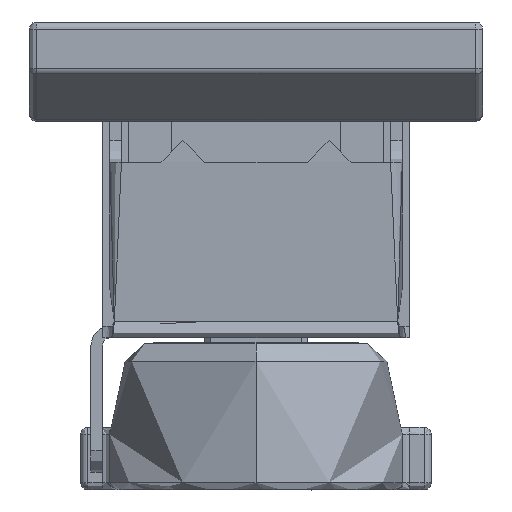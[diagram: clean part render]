
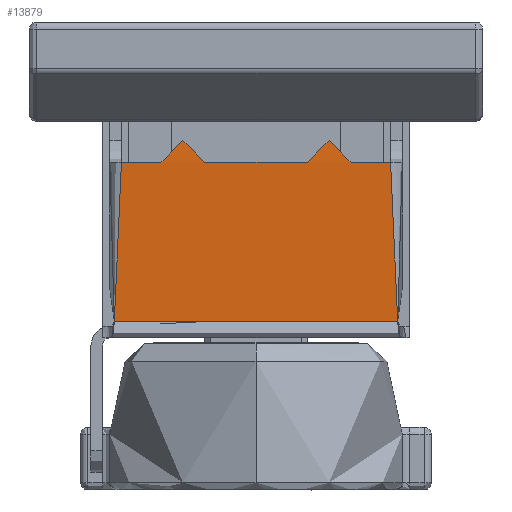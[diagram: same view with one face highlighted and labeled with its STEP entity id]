
A CAD part, front view. The second image highlights one B-rep face of the part: STEP entity #13879.
In plain terms, the highlighted planar face has unit normal (0, 1, 0).
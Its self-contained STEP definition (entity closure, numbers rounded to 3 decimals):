
#1 = ORIENTED_EDGE ( 'NONE', *, *, #13492, .T. ) ;
#489 = VERTEX_POINT ( 'NONE', #9597 ) ;
#731 = DIRECTION ( 'NONE',  ( 0.707, 0., 0.707 ) ) ;
#984 = CARTESIAN_POINT ( 'NONE',  ( -10.5, -12.05, 12. ) ) ;
#992 = VECTOR ( 'NONE', #6529, 1000. ) ;
#1025 = VECTOR ( 'NONE', #10344, 1000. ) ;
#1057 = LINE ( 'NONE', #2574, #7433 ) ;
#1105 = LINE ( 'NONE', #18258, #1025 ) ;
#1580 = DIRECTION ( 'NONE',  ( 0., 1., 0. ) ) ;
#2574 = CARTESIAN_POINT ( 'NONE',  ( 3.5, -12.05, 12. ) ) ;
#2740 = VERTEX_POINT ( 'NONE', #15927 ) ;
#2819 = VERTEX_POINT ( 'NONE', #12612 ) ;
#3041 = EDGE_CURVE ( 'NONE', #6341, #489, #1105, .T. ) ;
#3130 = CARTESIAN_POINT ( 'NONE',  ( -10.5, -12.05, 0. ) ) ;
#3181 = EDGE_CURVE ( 'NONE', #12739, #6550, #16976, .T. ) ;
#3345 = LINE ( 'NONE', #14055, #992 ) ;
#3698 = EDGE_CURVE ( 'NONE', #489, #2740, #17204, .T. ) ;
#3786 = ORIENTED_EDGE ( 'NONE', *, *, #19134, .T. ) ;
#4345 = DIRECTION ( 'NONE',  ( 0.707, 0., 0.707 ) ) ;
#4505 = VECTOR ( 'NONE', #16616, 1000. ) ;
#4595 = ORIENTED_EDGE ( 'NONE', *, *, #5843, .T. ) ;
#4673 = ORIENTED_EDGE ( 'NONE', *, *, #6068, .T. ) ;
#4839 = ORIENTED_EDGE ( 'NONE', *, *, #9044, .T. ) ;
#4927 = CARTESIAN_POINT ( 'NONE',  ( -6.5, -12.05, 12. ) ) ;
#5843 = EDGE_CURVE ( 'NONE', #2819, #18089, #15941, .T. ) ;
#5844 = VECTOR ( 'NONE', #12956, 1000. ) ;
#6037 = ORIENTED_EDGE ( 'NONE', *, *, #19234, .T. ) ;
#6068 = EDGE_CURVE ( 'NONE', #6550, #2819, #14353, .T. ) ;
#6341 = VERTEX_POINT ( 'NONE', #18053 ) ;
#6529 = DIRECTION ( 'NONE',  ( 1., 0., 0. ) ) ;
#6550 = VERTEX_POINT ( 'NONE', #18983 ) ;
#7379 = CARTESIAN_POINT ( 'NONE',  ( -6.5, -12.05, 12. ) ) ;
#7433 = VECTOR ( 'NONE', #731, 1000. ) ;
#7587 = CARTESIAN_POINT ( 'NONE',  ( 6.5, -12.05, 12. ) ) ;
#7592 = VECTOR ( 'NONE', #19742, 1000. ) ;
#8260 = LINE ( 'NONE', #15987, #5844 ) ;
#9044 = EDGE_CURVE ( 'NONE', #16973, #12739, #3345, .T. ) ;
#9193 = VECTOR ( 'NONE', #13418, 1000. ) ;
#9597 = CARTESIAN_POINT ( 'NONE',  ( 9.69, -11.467, 1.129 ) ) ;
#10344 = DIRECTION ( 'NONE',  ( 0., 0., -1. ) ) ;
#10738 = CARTESIAN_POINT ( 'NONE',  ( 10.5, -12.05, 1.05 ) ) ;
#11217 = CARTESIAN_POINT ( 'NONE',  ( -9.2, -12.05, 0. ) ) ;
#11228 = LINE ( 'NONE', #17577, #14647 ) ;
#11444 = ORIENTED_EDGE ( 'NONE', *, *, #12593, .T. ) ;
#11479 = VERTEX_POINT ( 'NONE', #7587 ) ;
#11801 = ORIENTED_EDGE ( 'NONE', *, *, #3698, .T. ) ;
#12593 = EDGE_CURVE ( 'NONE', #11479, #6341, #11228, .T. ) ;
#12612 = CARTESIAN_POINT ( 'NONE',  ( -3.5, -12.05, 12. ) ) ;
#12615 = AXIS2_PLACEMENT_3D ( 'NONE', #3130, #1580, #14051 ) ;
#12722 = EDGE_LOOP ( 'NONE', ( #14292, #11801, #6037, #4839, #19136, #4673, #4595, #1, #3786, #11444 ) ) ;
#12739 = VERTEX_POINT ( 'NONE', #4927 ) ;
#12785 = CARTESIAN_POINT ( 'NONE',  ( -5., -12.05, 13.5 ) ) ;
#12956 = DIRECTION ( 'NONE',  ( 0.707, 0., -0.707 ) ) ;
#13418 = DIRECTION ( 'NONE',  ( 1., 0., 0. ) ) ;
#13492 = EDGE_CURVE ( 'NONE', #18089, #19177, #1057, .T. ) ;
#13602 = DIRECTION ( 'NONE',  ( 1., 0., 0. ) ) ;
#13879 = ADVANCED_FACE ( 'NONE', ( #18346 ), #16783, .T. ) ;
#14051 = DIRECTION ( 'NONE',  ( 0., 0., 1. ) ) ;
#14055 = CARTESIAN_POINT ( 'NONE',  ( -10.5, -12.05, 12. ) ) ;
#14292 = ORIENTED_EDGE ( 'NONE', *, *, #3041, .T. ) ;
#14353 = LINE ( 'NONE', #12785, #7592 ) ;
#14545 = CARTESIAN_POINT ( 'NONE',  ( 5., -12.05, 13.5 ) ) ;
#14647 = VECTOR ( 'NONE', #13602, 1000. ) ;
#15863 = VECTOR ( 'NONE', #20015, 1000. ) ;
#15927 = CARTESIAN_POINT ( 'NONE',  ( -9.69, -11.467, 1.129 ) ) ;
#15941 = LINE ( 'NONE', #984, #9193 ) ;
#15987 = CARTESIAN_POINT ( 'NONE',  ( 5., -12.05, 13.5 ) ) ;
#16616 = DIRECTION ( 'NONE',  ( 0., 0., 1. ) ) ;
#16770 = CARTESIAN_POINT ( 'NONE',  ( -9.2, -12.05, 12. ) ) ;
#16783 = PLANE ( 'NONE',  #12615 ) ;
#16973 = VERTEX_POINT ( 'NONE', #16770 ) ;
#16976 = LINE ( 'NONE', #7379, #19854 ) ;
#17204 = LINE ( 'NONE', #10738, #15863 ) ;
#17570 = LINE ( 'NONE', #11217, #4505 ) ;
#17577 = CARTESIAN_POINT ( 'NONE',  ( -10.5, -12.05, 12. ) ) ;
#18053 = CARTESIAN_POINT ( 'NONE',  ( 9.2, -12.05, 12. ) ) ;
#18089 = VERTEX_POINT ( 'NONE', #18654 ) ;
#18258 = CARTESIAN_POINT ( 'NONE',  ( 9.2, -12.05, 0. ) ) ;
#18346 = FACE_OUTER_BOUND ( 'NONE', #12722, .T. ) ;
#18654 = CARTESIAN_POINT ( 'NONE',  ( 3.5, -12.05, 12. ) ) ;
#18983 = CARTESIAN_POINT ( 'NONE',  ( -5., -12.05, 13.5 ) ) ;
#19134 = EDGE_CURVE ( 'NONE', #19177, #11479, #8260, .T. ) ;
#19136 = ORIENTED_EDGE ( 'NONE', *, *, #3181, .T. ) ;
#19177 = VERTEX_POINT ( 'NONE', #14545 ) ;
#19234 = EDGE_CURVE ( 'NONE', #2740, #16973, #17570, .T. ) ;
#19742 = DIRECTION ( 'NONE',  ( 0.707, 0., -0.707 ) ) ;
#19854 = VECTOR ( 'NONE', #4345, 1000. ) ;
#20015 = DIRECTION ( 'NONE',  ( -1., 0., 0. ) ) ;
